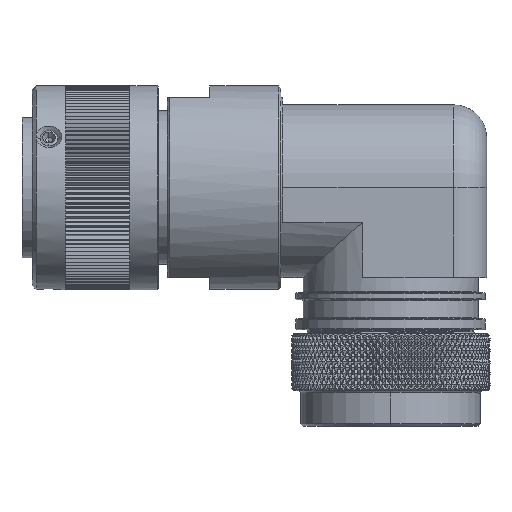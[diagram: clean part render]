
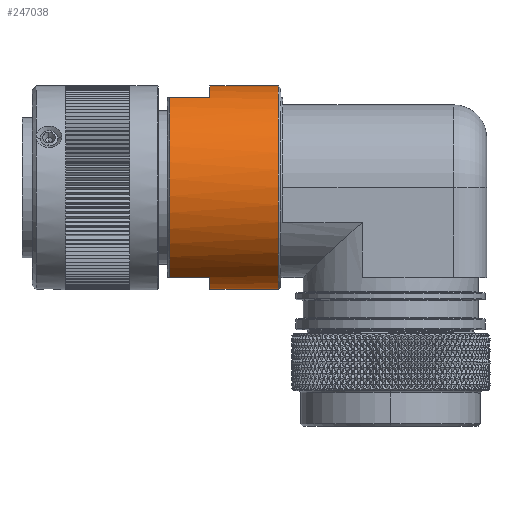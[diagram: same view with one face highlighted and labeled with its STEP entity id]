
A CAD part, top view. The second image highlights one B-rep face of the part: STEP entity #247038.
In plain terms, the highlighted cylindrical face has radius 21.5 mm (diameter 43 mm), a partial arc.
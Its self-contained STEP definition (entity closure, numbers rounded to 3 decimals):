
#84087=CARTESIAN_POINT('',(39.7,0.,0.));
#84088=DIRECTION('',(1.,0.,0.));
#84089=DIRECTION('',(0.,1.,0.));
#84090=AXIS2_PLACEMENT_3D('',#84087,#84088,#84089);
#84092=CARTESIAN_POINT('',(54.2,0.,0.));
#84093=DIRECTION('',(-1.,0.,0.));
#84094=DIRECTION('',(0.,-1.,0.));
#84095=AXIS2_PLACEMENT_3D('',#84092,#84093,#84094);
#84097=CARTESIAN_POINT('',(39.7,0.,0.));
#84098=DIRECTION('',(1.,0.,0.));
#84099=DIRECTION('',(0.,-0.884,0.468));
#84100=AXIS2_PLACEMENT_3D('',#84097,#84098,#84099);
#84102=DIRECTION('',(1.,0.,0.));
#84103=VECTOR('',#84102,8.5);
#84104=CARTESIAN_POINT('',(31.2,-19.,10.062));
#84105=LINE('12115',#84104,#84103);
#84106=CARTESIAN_POINT('',(31.2,0.,0.));
#84107=DIRECTION('',(-1.,0.,0.));
#84108=DIRECTION('',(0.,-0.884,0.468));
#84109=AXIS2_PLACEMENT_3D('',#84106,#84107,#84108);
#84111=DIRECTION('',(1.,0.,0.));
#84112=VECTOR('',#84111,8.5);
#84113=CARTESIAN_POINT('',(31.2,19.,10.062));
#84114=LINE('12114',#84113,#84112);
#84160=DIRECTION('',(-1.,0.,0.));
#84161=VECTOR('',#84160,14.5);
#84162=CARTESIAN_POINT('',(54.2,-21.5,
0.));
#84163=LINE('12137',#84162,#84161);
#84169=DIRECTION('',(-1.,0.,0.));
#84170=VECTOR('',#84169,14.5);
#84171=CARTESIAN_POINT('',(54.2,21.5,
0.));
#84172=LINE('12136',#84171,#84170);
#94704=CARTESIAN_POINT('',(39.7,21.5,0.));
#94705=CARTESIAN_POINT('',(39.7,19.,10.062));
#94706=VERTEX_POINT('',#94704);
#94707=VERTEX_POINT('',#94705);
#94708=CARTESIAN_POINT('',(39.7,-19.,10.062));
#94709=CARTESIAN_POINT('',(39.7,-21.5,0.));
#94710=VERTEX_POINT('',#94708);
#94711=VERTEX_POINT('',#94709);
#94712=CARTESIAN_POINT('',(31.2,19.,10.062));
#94713=VERTEX_POINT('',#94712);
#94714=CARTESIAN_POINT('',(31.2,-19.,10.062));
#94715=VERTEX_POINT('',#94714);
#94724=CARTESIAN_POINT('',(54.2,-21.5,0.));
#94725=CARTESIAN_POINT('',(54.2,21.5,0.));
#94726=VERTEX_POINT('',#94724);
#94727=VERTEX_POINT('',#94725);
#247016=CARTESIAN_POINT('',(29.5,0.,0.));
#247017=DIRECTION('',(1.,0.,0.));
#247018=DIRECTION('',(0.,-1.,0.));
#247019=AXIS2_PLACEMENT_3D('',#247016,#247017,#247018);
#247020=CYLINDRICAL_SURFACE('1608',#247019,21.5);
#247022=ORIENTED_EDGE('12112',*,*,#247021,.F.);
#247024=ORIENTED_EDGE('12136',*,*,#247023,.F.);
#247025=ORIENTED_EDGE('12122',*,*,#246999,.F.);
#247027=ORIENTED_EDGE('12137',*,*,#247026,.T.);
#247029=ORIENTED_EDGE('12113',*,*,#247028,.F.);
#247031=ORIENTED_EDGE('12115',*,*,#247030,.F.);
#247033=ORIENTED_EDGE('12133',*,*,#247032,.T.);
#247035=ORIENTED_EDGE('12114',*,*,#247034,.T.);
#247036=EDGE_LOOP('1608',(#247022,#247024,#247025,#247027,#247029,#247031,
#247033,#247035));
#247037=FACE_OUTER_BOUND('1608',#247036,.F.);
#84091=CIRCLE('12112',#84090,21.5);
#84096=CIRCLE('12122',#84095,21.5);
#84101=CIRCLE('12113',#84100,21.5);
#84110=CIRCLE('12133',#84109,21.5);
#246999=EDGE_CURVE('12122',#94726,#94727,#84096,.T.);
#247021=EDGE_CURVE('12112',#94706,#94707,#84091,.T.);
#247023=EDGE_CURVE('12136',#94727,#94706,#84172,.T.);
#247026=EDGE_CURVE('12137',#94726,#94711,#84163,.T.);
#247028=EDGE_CURVE('12113',#94710,#94711,#84101,.T.);
#247030=EDGE_CURVE('12115',#94715,#94710,#84105,.T.);
#247032=EDGE_CURVE('12133',#94715,#94713,#84110,.T.);
#247034=EDGE_CURVE('12114',#94713,#94707,#84114,.T.);
#247038=ADVANCED_FACE('1608',(#247037),#247020,.T.);
